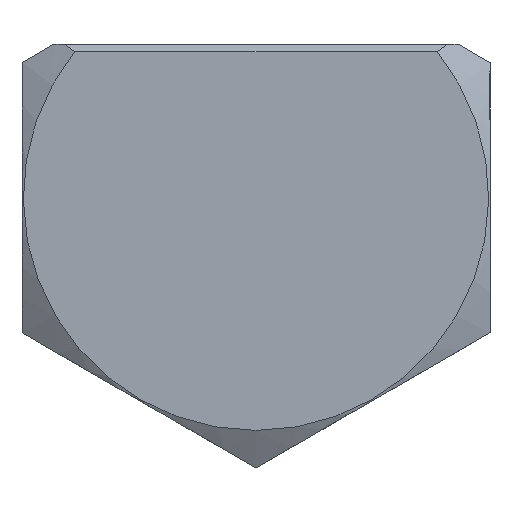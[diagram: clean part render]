
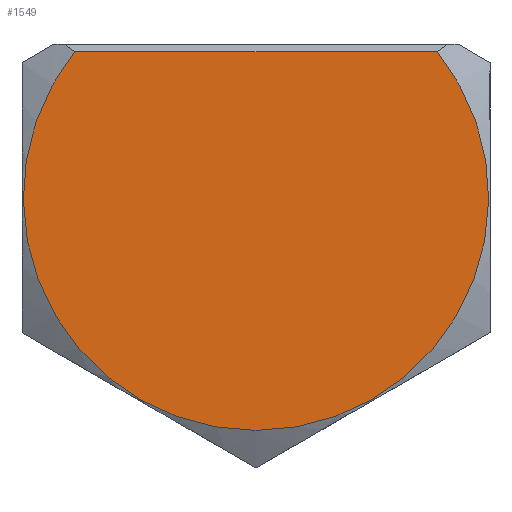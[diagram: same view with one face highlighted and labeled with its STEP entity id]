
A CAD part, front view. The second image highlights one B-rep face of the part: STEP entity #1549.
In plain terms, the highlighted planar face has unit normal (0, -1, 0).
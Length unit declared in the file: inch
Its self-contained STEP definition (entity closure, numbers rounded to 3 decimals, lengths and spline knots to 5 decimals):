
#100=PLANE('',#1700);
#239=FACE_OUTER_BOUND('',#332,.T.);
#332=EDGE_LOOP('',(#1187,#1188));
#414=LINE('',#2566,#473);
#473=VECTOR('',#1928,0.3937);
#540=CIRCLE('',#1689,0.6215);
#631=VERTEX_POINT('',#2561);
#632=VERTEX_POINT('',#2565);
#816=EDGE_CURVE('',#631,#632,#414,.T.);
#830=EDGE_CURVE('',#632,#631,#540,.T.);
#1187=ORIENTED_EDGE('',*,*,#816,.F.);
#1188=ORIENTED_EDGE('',*,*,#830,.F.);
#1549=ADVANCED_FACE('',(#239),#100,.T.);
#1689=AXIS2_PLACEMENT_3D('',#2604,#1942,#1943);
#1700=AXIS2_PLACEMENT_3D('',#2623,#1972,#1973);
#1928=DIRECTION('',(1.,0.,0.));
#1942=DIRECTION('center_axis',(0.,1.,0.));
#1943=DIRECTION('ref_axis',(0.,0.,1.));
#1972=DIRECTION('center_axis',(0.,-1.,0.));
#1973=DIRECTION('ref_axis',(0.,0.,-1.));
#2561=CARTESIAN_POINT('',(-0.4839,0.,0.39));
#2565=CARTESIAN_POINT('',(0.4839,0.,0.39));
#2566=CARTESIAN_POINT('',(0.26993,0.,0.39));
#2604=CARTESIAN_POINT('Origin',(0.,0.,0.));
#2623=CARTESIAN_POINT('Origin',(0.,0.,0.));
